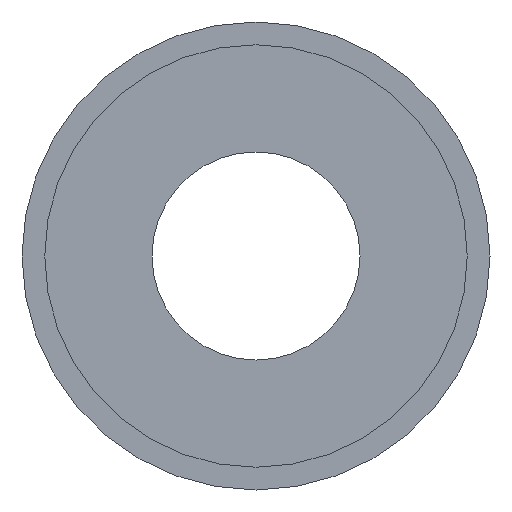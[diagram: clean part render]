
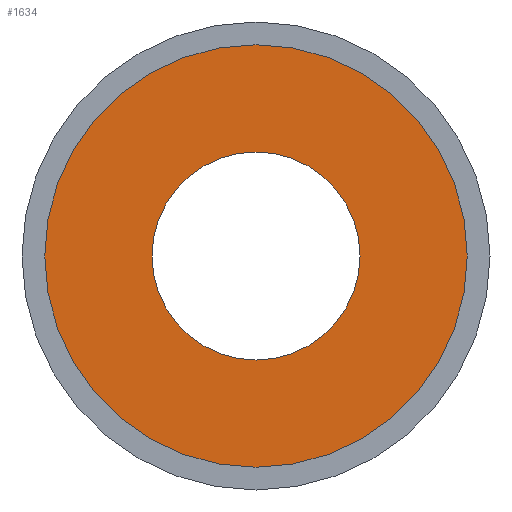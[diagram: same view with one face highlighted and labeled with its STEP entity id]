
A CAD part, front view. The second image highlights one B-rep face of the part: STEP entity #1634.
In plain terms, the highlighted planar face has unit normal (0, -1, 0).
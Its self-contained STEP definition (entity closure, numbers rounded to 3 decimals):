
#41 = DIRECTION ( 'NONE',  ( 0., -1., 0. ) ) ;
#54 = CARTESIAN_POINT ( 'NONE',  ( 0., -15., 32.5 ) ) ;
#197 = ORIENTED_EDGE ( 'NONE', *, *, #754, .T. ) ;
#223 = DIRECTION ( 'NONE',  ( 0., 0., -1. ) ) ;
#280 = AXIS2_PLACEMENT_3D ( 'NONE', #1463, #2391, #1440 ) ;
#565 = EDGE_LOOP ( 'NONE', ( #2352, #1474 ) ) ;
#633 = DIRECTION ( 'NONE',  ( 0., 1., 0. ) ) ;
#637 = CARTESIAN_POINT ( 'NONE',  ( 0., -15., 0. ) ) ;
#639 = VERTEX_POINT ( 'NONE', #1123 ) ;
#647 = DIRECTION ( 'NONE',  ( 0., 0., -1. ) ) ;
#754 = EDGE_CURVE ( 'NONE', #2289, #957, #2166, .T. ) ;
#773 = VERTEX_POINT ( 'NONE', #2307 ) ;
#957 = VERTEX_POINT ( 'NONE', #2022 ) ;
#992 = CARTESIAN_POINT ( 'NONE',  ( 0., -15., 0. ) ) ;
#1031 = CIRCLE ( 'NONE', #2047, 16. ) ;
#1102 = CARTESIAN_POINT ( 'NONE',  ( 0., -15., 0. ) ) ;
#1123 = CARTESIAN_POINT ( 'NONE',  ( 0., -15., 16. ) ) ;
#1134 = EDGE_CURVE ( 'NONE', #957, #2289, #2365, .T. ) ;
#1203 = EDGE_LOOP ( 'NONE', ( #2118, #197 ) ) ;
#1209 = EDGE_CURVE ( 'NONE', #773, #639, #1031, .T. ) ;
#1240 = AXIS2_PLACEMENT_3D ( 'NONE', #992, #1366, #223 ) ;
#1268 = EDGE_CURVE ( 'NONE', #639, #773, #2279, .T. ) ;
#1312 = DIRECTION ( 'NONE',  ( 0., -1., 0. ) ) ;
#1366 = DIRECTION ( 'NONE',  ( 0., -1., 0. ) ) ;
#1373 = CARTESIAN_POINT ( 'NONE',  ( 0., -15., 16. ) ) ;
#1434 = AXIS2_PLACEMENT_3D ( 'NONE', #1373, #633, #2139 ) ;
#1440 = DIRECTION ( 'NONE',  ( 0., 0., -1. ) ) ;
#1455 = FACE_OUTER_BOUND ( 'NONE', #1203, .T. ) ;
#1463 = CARTESIAN_POINT ( 'NONE',  ( 0., -15., 0. ) ) ;
#1474 = ORIENTED_EDGE ( 'NONE', *, *, #1268, .F. ) ;
#1634 = ADVANCED_FACE ( 'NONE', ( #2075, #1455 ), #1751, .F. ) ;
#1751 = PLANE ( 'NONE',  #1434 ) ;
#2022 = CARTESIAN_POINT ( 'NONE',  ( 0., -15., -32.5 ) ) ;
#2047 = AXIS2_PLACEMENT_3D ( 'NONE', #637, #41, #647 ) ;
#2075 = FACE_BOUND ( 'NONE', #565, .T. ) ;
#2118 = ORIENTED_EDGE ( 'NONE', *, *, #1134, .T. ) ;
#2139 = DIRECTION ( 'NONE',  ( 0., 0., 1. ) ) ;
#2166 = CIRCLE ( 'NONE', #1240, 32.5 ) ;
#2230 = DIRECTION ( 'NONE',  ( 0., 0., -1. ) ) ;
#2248 = AXIS2_PLACEMENT_3D ( 'NONE', #1102, #1312, #2230 ) ;
#2279 = CIRCLE ( 'NONE', #280, 16. ) ;
#2289 = VERTEX_POINT ( 'NONE', #54 ) ;
#2307 = CARTESIAN_POINT ( 'NONE',  ( 0., -15., -16. ) ) ;
#2352 = ORIENTED_EDGE ( 'NONE', *, *, #1209, .F. ) ;
#2365 = CIRCLE ( 'NONE', #2248, 32.5 ) ;
#2391 = DIRECTION ( 'NONE',  ( 0., -1., 0. ) ) ;
